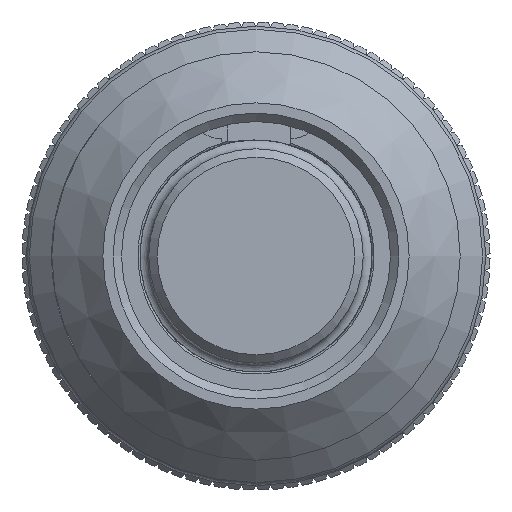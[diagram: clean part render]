
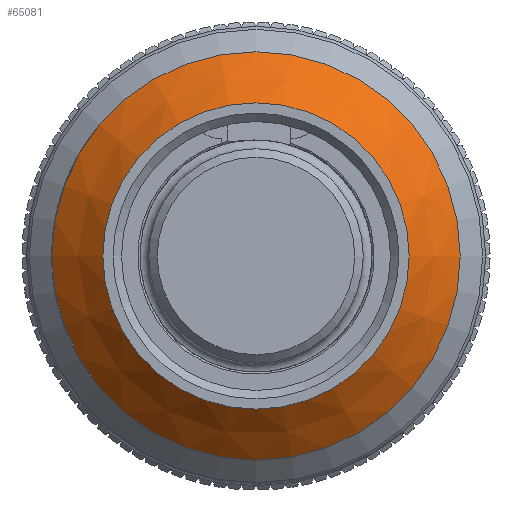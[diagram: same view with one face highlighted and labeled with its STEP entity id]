
A CAD part, left-side view. The second image highlights one B-rep face of the part: STEP entity #65081.
In plain terms, the highlighted conical face has half-angle 45 degrees and reference radius 11.43 mm.
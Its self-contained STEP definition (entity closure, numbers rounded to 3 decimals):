
#3329 = AXIS2_PLACEMENT_3D ( 'NONE', #30644, #39784, #40447 ) ;
#11881 = VERTEX_POINT ( 'NONE', #43315 ) ;
#12757 = CARTESIAN_POINT ( 'NONE',  ( 0., -11.43, 0. ) ) ;
#18986 = AXIS2_PLACEMENT_3D ( 'NONE', #41909, #62216, #62897 ) ;
#21543 = CONICAL_SURFACE ( 'NONE', #31573, 11.43, 0.785 ) ;
#26766 = ORIENTED_EDGE ( 'NONE', *, *, #37039, .T. ) ;
#29130 = CIRCLE ( 'NONE', #3329, 11.43 ) ;
#30644 = CARTESIAN_POINT ( 'NONE',  ( 0., 0., 0. ) ) ;
#31496 = CARTESIAN_POINT ( 'NONE',  ( 0., 0., 0. ) ) ;
#31573 = AXIS2_PLACEMENT_3D ( 'NONE', #31496, #61831, #56284 ) ;
#37039 = EDGE_CURVE ( 'NONE', #11881, #11881, #49727, .T. ) ;
#39784 = DIRECTION ( 'NONE',  ( -1., 0., 0. ) ) ;
#40094 = EDGE_LOOP ( 'NONE', ( #47622 ) ) ;
#40447 = DIRECTION ( 'NONE',  ( 0., -1., 0. ) ) ;
#41567 = EDGE_LOOP ( 'NONE', ( #26766 ) ) ;
#41909 = CARTESIAN_POINT ( 'NONE',  ( 3.81, 0., 0. ) ) ;
#43315 = CARTESIAN_POINT ( 'NONE',  ( 3.81, -15.24, 0. ) ) ;
#47622 = ORIENTED_EDGE ( 'NONE', *, *, #49609, .F. ) ;
#48658 = VERTEX_POINT ( 'NONE', #12757 ) ;
#49497 = FACE_OUTER_BOUND ( 'NONE', #41567, .T. ) ;
#49609 = EDGE_CURVE ( 'NONE', #48658, #48658, #29130, .T. ) ;
#49727 = CIRCLE ( 'NONE', #18986, 15.24 ) ;
#56284 = DIRECTION ( 'NONE',  ( 0., 1., 0. ) ) ;
#61831 = DIRECTION ( 'NONE',  ( 1., 0., 0. ) ) ;
#62216 = DIRECTION ( 'NONE',  ( -1., 0., 0. ) ) ;
#62897 = DIRECTION ( 'NONE',  ( 0., -1., 0. ) ) ;
#65081 = ADVANCED_FACE ( 'NONE', ( #49497, #66222 ), #21543, .T. ) ;
#66222 = FACE_BOUND ( 'NONE', #40094, .T. ) ;
